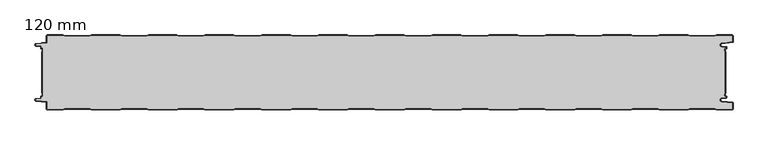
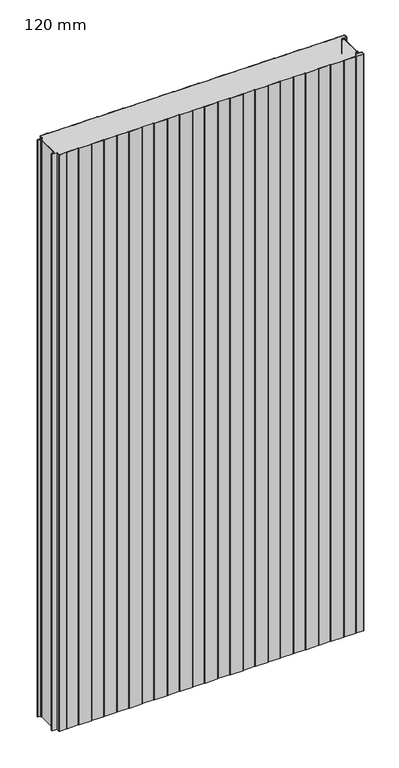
"""IFC4 building model written with IfcOpenShell, lengths in millimetres: plate geometry, HIANSA PANEL - H20.F03.001-PANEL FRIGORÍFICO - PANEL FRIGO - Panel de Muro Cortina : 120 mm."""

from ifc_helpers import new_model, si_unit, point, frame_2d, origin, origin_with_axes, place, context, project, spatial, polyline, circle_curve, trimmed, segment, composite_curve, outline, extrude, source, transform, mapped, element, save


def plate_120_mm_d4df899b(model_context):
    return source(origin(), model_context, "Body", "SweptSolid", [
        extrude(outline(polyline([(555.9827922, -94.0), (555.9827922, -26.0), (556.4221321, -26.6713576), (556.4221321, -93.3286424), (555.9827922, -94.0)])), origin_with_axes(), (0.0, 0.0, 1.0), 2200.0),
        extrude(outline(polyline([(-538.5172078, -26.0), (-538.5172078, -94.0), (-539.1172077, -92.9695032), (-539.1172077, -27.0304968), (-538.5172078, -26.0)])), origin_with_axes(), (0.0, 0.0, 1.0), 2200.0),
        extrude(outline(composite_curve([segment(polyline([(-370.9360691, -1.5), (-411.0983467, -1.5), (-414.0983467, -0.5), (-458.9360691, -0.5), (-461.9360691, -1.5), (-502.0983467, -1.5), (-505.0983467, -0.5), (-529.9172079, -0.5)]), True, "CONTINUOUS"), segment(trimmed(circle_curve(frame_2d((-529.9172079, -1.6)), 1.1), [point((-529.9172079, -0.5))], [point((-531.0172079, -1.6))], True, "CARTESIAN"), True, "CONTINUOUS"), segment(polyline([(-531.0172079, -1.6), (-531.0172079, -11.7987531)]), True, "CONTINUOUS"), segment(trimmed(circle_curve(frame_2d((-532.0172079, -11.7987531)), 1.0), [point((-531.0172079, -11.7987531))], [point((-531.9177042, -12.7937903))], False, "CARTESIAN"), True, "CONTINUOUS"), segment(polyline([(-531.9177042, -12.7937903), (-548.0592062, -14.4079404)]), True, "CONTINUOUS"), segment(trimmed(circle_curve(frame_2d((-547.9000002, -15.9999999)), 1.6), [point((-548.0592062, -14.4079404))], [point((-548.0592062, -17.5920594))], True, "CARTESIAN"), True, "CONTINUOUS"), segment(polyline([(-548.0592062, -17.5920594), (-541.4177042, -18.2562097)]), True, "CONTINUOUS"), segment(trimmed(circle_curve(frame_2d((-541.5172079, -19.2512469)), 1.0), [point((-541.4177042, -18.2562097))], [point((-540.5172079, -19.2512469))], False, "CARTESIAN"), True, "CONTINUOUS"), segment(polyline([(-540.5172079, -19.2512469), (-540.5172079, -21.5), (-539.0172079, -21.5)]), True, "CONTINUOUS"), segment(trimmed(circle_curve(frame_2d((-539.0172079, -22.5)), 1.0), [point((-539.0172079, -21.5))], [point((-538.0172079, -22.5))], False, "CARTESIAN"), True, "CONTINUOUS"), segment(polyline([(-538.0172079, -22.5), (-538.0172079, -25.1412526), (-538.5172079, -26.0), (-538.5172079, -22.0), (-540.0172079, -22.0)]), True, "CONTINUOUS"), segment(trimmed(circle_curve(frame_2d((-540.0172079, -21.0)), 1.0), [point((-540.0172079, -22.0))], [point((-541.0172079, -21.0))], False, "CARTESIAN"), True, "CONTINUOUS"), segment(polyline([(-541.0172079, -21.0), (-541.0172079, -18.7987531), (-548.1089579, -18.0895783)]), True, "CONTINUOUS"), segment(trimmed(circle_curve(frame_2d((-547.9000002, -16.0000002)), 2.1), [point((-548.1089579, -18.0895783))], [point((-548.108958, -13.9104221))], False, "CARTESIAN"), True, "CONTINUOUS"), segment(polyline([(-548.108958, -13.9104221), (-531.5172079, -12.2512469), (-531.5172079, -1.6)]), True, "CONTINUOUS"), segment(trimmed(circle_curve(frame_2d((-529.9172079, -1.6)), 1.6), [point((-531.5172079, -1.6))], [point((-529.9172079, 0.0))], False, "CARTESIAN"), True, "CONTINUOUS"), segment(polyline([(-529.9172079, 0.0), (-505.0172079, 0.0), (-502.0172079, -1.0), (-462.0172079, -1.0), (-459.0172079, 0.0), (-414.0172079, 0.0), (-411.0172079, -1.0), (-371.0172079, -1.0), (-368.0172079, 0.0), (-323.0172079, 0.0), (-320.0172079, -1.0), (-280.0172079, -1.0), (-277.0172079, 0.0), (-232.0172079, 0.0), (-229.0172079, -1.0), (-189.0172079, -1.0), (-186.0172079, 0.0), (-141.0172079, 0.0), (-138.0172079, -1.0), (-98.0172079, -1.0), (-95.0172079, 0.0), (-50.0172079, 0.0), (-47.0172079, -1.0), (-7.0172079, -1.0), (-4.0172079, 0.0), (40.9827921, 0.0), (43.9827921, -1.0), (83.9827921, -1.0), (86.9827921, 0.0), (131.9827921, 0.0), (134.9827921, -1.0), (174.9827921, -1.0), (177.9827921, 0.0), (222.9827921, 0.0), (225.9827921, -1.0), (265.9827921, -1.0), (268.9827921, 0.0), (313.9827921, 0.0), (316.9827921, -1.0), (356.9827921, -1.0), (359.9827921, 0.0), (404.9827921, 0.0), (407.9827921, -1.0), (447.9827921, -1.0), (450.9827921, 0.0), (495.9827921, 0.0), (498.9827921, -1.0), (538.9827921, -1.0), (541.9827921, 0.0), (566.8827921, 0.0)]), True, "CONTINUOUS"), segment(trimmed(circle_curve(frame_2d((566.8827921, -1.6)), 1.6), [point((566.8827921, 0.0))], [point((568.4827921, -1.6))], False, "CARTESIAN"), True, "CONTINUOUS"), segment(polyline([(568.4827921, -1.6), (568.4827921, -11.0950124)]), True, "CONTINUOUS"), segment(trimmed(circle_curve(frame_2d((567.4827921, -11.0950124)), 1.0), [point((568.4827921, -11.0950124))], [point((567.5822958, -12.0900496))], False, "CARTESIAN"), True, "CONTINUOUS"), segment(polyline([(567.5822958, -12.0900496), (550.2837847, -13.8199007)]), True, "CONTINUOUS"), segment(trimmed(circle_curve(frame_2d((550.5873461, -16.0)), 2.2011321), [point((550.2837847, -13.8199007))], [point((550.2837847, -18.1800993))], True, "CARTESIAN"), True, "CONTINUOUS"), segment(polyline([(550.2837847, -18.1800993), (557.5822958, -18.9099504)]), True, "CONTINUOUS"), segment(trimmed(circle_curve(frame_2d((557.4827921, -19.9049876)), 1.0), [point((557.5822958, -18.9099504))], [point((558.4827921, -19.9049876))], False, "CARTESIAN"), True, "CONTINUOUS"), segment(polyline([(558.4827921, -19.9049876), (558.4827921, -21.0)]), True, "CONTINUOUS"), segment(trimmed(circle_curve(frame_2d((557.4827921, -21.0)), 1.0), [point((558.4827921, -21.0))], [point((557.4827921, -22.0))], False, "CARTESIAN"), True, "CONTINUOUS"), segment(polyline([(557.4827921, -22.0), (555.9827921, -22.0), (555.9827921, -26.0), (555.4827921, -25.2359473), (555.4827921, -22.5)]), True, "CONTINUOUS"), segment(trimmed(circle_curve(frame_2d((556.4827921, -22.5)), 1.0), [point((555.4827921, -22.5))], [point((556.4827921, -21.5))], False, "CARTESIAN"), True, "CONTINUOUS"), segment(polyline([(556.4827921, -21.5), (557.9827921, -21.5), (557.9827921, -19.4524938), (550.2340328, -18.6776179)]), True, "CONTINUOUS"), segment(trimmed(circle_curve(frame_2d((550.5859823, -16.0)), 2.7006492), [point((550.2340328, -18.6776179))], [point((550.2340328, -13.3223821))], False, "CARTESIAN"), True, "CONTINUOUS"), segment(polyline([(550.2340328, -13.3223821), (567.9827921, -11.5475062), (567.9827921, -1.6)]), True, "CONTINUOUS"), segment(trimmed(circle_curve(frame_2d((566.8827921, -1.6)), 1.1), [point((567.9827921, -1.6))], [point((566.8827921, -0.5))], True, "CARTESIAN"), True, "CONTINUOUS"), segment(polyline([(566.8827921, -0.5), (542.0639309, -0.5), (539.0639309, -1.5), (498.9016533, -1.5), (495.9016533, -0.5), (451.0639309, -0.5), (448.0639309, -1.5), (407.9016533, -1.5), (404.9016533, -0.5), (360.0639309, -0.5), (357.0639309, -1.5), (316.9016533, -1.5), (313.9016533, -0.5), (269.0639309, -0.5), (266.0639309, -1.5), (225.9016533, -1.5), (222.9016533, -0.5), (178.0639309, -0.5), (175.0639309, -1.5), (134.9016533, -1.5), (131.9016533, -0.5), (87.0639309, -0.5), (84.0639309, -1.5), (43.9016533, -1.5), (40.9016533, -0.5), (-3.9360691, -0.5), (-6.9360691, -1.5), (-47.0983467, -1.5), (-50.0983467, -0.5), (-94.9360691, -0.5), (-97.9360691, -1.5), (-138.0983467, -1.5), (-141.0983467, -0.5), (-185.9360691, -0.5), (-188.9360691, -1.5), (-229.0983467, -1.5), (-232.0983467, -0.5), (-276.9360691, -0.5), (-279.9360691, -1.5), (-320.0983467, -1.5), (-323.0983467, -0.5), (-367.9360691, -0.5), (-370.9360691, -1.5)]), True, "CONTINUOUS")], self_intersect=False)), origin_with_axes(), (0.0, 0.0, 1.0), 2200.0),
        extrude(outline(composite_curve([segment(polyline([(-370.9360691, -118.5), (-367.9360691, -119.5), (-323.0983467, -119.5), (-320.0983467, -118.5), (-279.9360691, -118.5), (-276.9360691, -119.5), (-232.0983467, -119.5), (-229.0983467, -118.5), (-188.9360691, -118.5), (-185.9360691, -119.5), (-141.0983467, -119.5), (-138.0983467, -118.5), (-97.9360691, -118.5), (-94.9360691, -119.5), (-50.0983467, -119.5), (-47.0983467, -118.5), (-6.9360691, -118.5), (-3.9360691, -119.5), (40.9016533, -119.5), (43.9016533, -118.5), (84.0639309, -118.5), (87.0639309, -119.5), (131.9016533, -119.5), (134.9016533, -118.5), (175.0639309, -118.5), (178.0639309, -119.5), (222.9016533, -119.5), (225.9016533, -118.5), (266.0639309, -118.5), (269.0639309, -119.5), (313.9016533, -119.5), (316.9016533, -118.5), (357.0639309, -118.5), (360.0639309, -119.5), (404.9016533, -119.5), (407.9016533, -118.5), (448.0639309, -118.5), (451.0639309, -119.5), (495.9016533, -119.5), (498.9016533, -118.5), (539.0639309, -118.5), (542.0639309, -119.5), (566.8827921, -119.5)]), True, "CONTINUOUS"), segment(trimmed(circle_curve(frame_2d((566.8827921, -118.4)), 1.1), [point((566.8827921, -119.5))], [point((567.9827921, -118.4))], True, "CARTESIAN"), True, "CONTINUOUS"), segment(polyline([(567.9827921, -118.4), (567.9827921, -108.4524938), (550.2340328, -106.6776179)]), True, "CONTINUOUS"), segment(trimmed(circle_curve(frame_2d((550.5859823, -104.0)), 2.7006492), [point((550.2340328, -106.6776179))], [point((550.2340328, -101.3223821))], False, "CARTESIAN"), True, "CONTINUOUS"), segment(polyline([(550.2340328, -101.3223821), (557.9827921, -100.5475062), (557.9827921, -98.5), (556.4827921, -98.5)]), True, "CONTINUOUS"), segment(trimmed(circle_curve(frame_2d((556.4827921, -97.5)), 1.0), [point((556.4827921, -98.5))], [point((555.4827921, -97.5))], False, "CARTESIAN"), True, "CONTINUOUS"), segment(polyline([(555.4827921, -97.5), (555.4827921, -94.7640527), (555.9827921, -94.0), (555.9827921, -98.0), (557.4827921, -98.0)]), True, "CONTINUOUS"), segment(trimmed(circle_curve(frame_2d((557.4827921, -99.0)), 1.0), [point((557.4827921, -98.0))], [point((558.4827921, -99.0))], False, "CARTESIAN"), True, "CONTINUOUS"), segment(polyline([(558.4827921, -99.0), (558.4827921, -100.0950124)]), True, "CONTINUOUS"), segment(trimmed(circle_curve(frame_2d((557.4827921, -100.0950124)), 1.0), [point((558.4827921, -100.0950124))], [point((557.5822958, -101.0900496))], False, "CARTESIAN"), True, "CONTINUOUS"), segment(polyline([(557.5822958, -101.0900496), (550.2837847, -101.8199007)]), True, "CONTINUOUS"), segment(trimmed(circle_curve(frame_2d((550.5873461, -104.0)), 2.2011321), [point((550.2837847, -101.8199007))], [point((550.2837847, -106.1800993))], True, "CARTESIAN"), True, "CONTINUOUS"), segment(polyline([(550.2837847, -106.1800993), (567.5822958, -107.9099504)]), True, "CONTINUOUS"), segment(trimmed(circle_curve(frame_2d((567.4827921, -108.9049876)), 1.0), [point((567.5822958, -107.9099504))], [point((568.4827921, -108.9049876))], False, "CARTESIAN"), True, "CONTINUOUS"), segment(polyline([(568.4827921, -108.9049876), (568.4827921, -118.4)]), True, "CONTINUOUS"), segment(trimmed(circle_curve(frame_2d((566.8827921, -118.4)), 1.6), [point((568.4827921, -118.4))], [point((566.8827921, -120.0))], False, "CARTESIAN"), True, "CONTINUOUS"), segment(polyline([(566.8827921, -120.0), (541.9827921, -120.0), (538.9827921, -119.0), (498.9827921, -119.0), (495.9827921, -120.0), (450.9827921, -120.0), (447.9827921, -119.0), (407.9827921, -119.0), (404.9827921, -120.0), (359.9827921, -120.0), (356.9827921, -119.0), (316.9827921, -119.0), (313.9827921, -120.0), (268.9827921, -120.0), (265.9827921, -119.0), (225.9827921, -119.0), (222.9827921, -120.0), (177.9827921, -120.0), (174.9827921, -119.0), (134.9827921, -119.0), (131.9827921, -120.0), (86.9827921, -120.0), (83.9827921, -119.0), (43.9827921, -119.0), (40.9827921, -120.0), (-4.0172079, -120.0), (-7.0172079, -119.0), (-47.0172079, -119.0), (-50.0172079, -120.0), (-95.0172079, -120.0), (-98.0172079, -119.0), (-138.0172079, -119.0), (-141.0172079, -120.0), (-186.0172079, -120.0), (-189.0172079, -119.0), (-229.0172079, -119.0), (-232.0172079, -120.0), (-277.0172079, -120.0), (-280.0172079, -119.0), (-320.0172079, -119.0), (-323.0172079, -120.0), (-368.0172079, -120.0), (-371.0172079, -119.0), (-411.0172079, -119.0), (-414.0172079, -120.0), (-459.0172079, -120.0), (-462.0172079, -119.0), (-502.0172079, -119.0), (-505.0172079, -120.0), (-529.9172079, -120.0)]), True, "CONTINUOUS"), segment(trimmed(circle_curve(frame_2d((-529.9172079, -118.4)), 1.6), [point((-529.9172079, -120.0))], [point((-531.5172079, -118.4))], False, "CARTESIAN"), True, "CONTINUOUS"), segment(polyline([(-531.5172079, -118.4), (-531.5172079, -107.7487531), (-548.108958, -106.0895779)]), True, "CONTINUOUS"), segment(trimmed(circle_curve(frame_2d((-547.9000002, -103.9999998)), 2.1), [point((-548.108958, -106.0895779))], [point((-548.1089579, -101.9104217))], False, "CARTESIAN"), True, "CONTINUOUS"), segment(polyline([(-548.1089579, -101.9104217), (-541.0172079, -101.2012469), (-541.0172079, -99.0)]), True, "CONTINUOUS"), segment(trimmed(circle_curve(frame_2d((-540.0172079, -99.0)), 1.0), [point((-541.0172079, -99.0))], [point((-540.0172079, -98.0))], False, "CARTESIAN"), True, "CONTINUOUS"), segment(polyline([(-540.0172079, -98.0), (-538.5172079, -98.0), (-538.5172079, -94.0), (-538.0172079, -94.8587474), (-538.0172079, -97.5)]), True, "CONTINUOUS"), segment(trimmed(circle_curve(frame_2d((-539.0172079, -97.5)), 1.0), [point((-538.0172079, -97.5))], [point((-539.0172079, -98.5))], False, "CARTESIAN"), True, "CONTINUOUS"), segment(polyline([(-539.0172079, -98.5), (-540.5172079, -98.5), (-540.5172079, -100.7487531)]), True, "CONTINUOUS"), segment(trimmed(circle_curve(frame_2d((-541.5172079, -100.7487531)), 1.0), [point((-540.5172079, -100.7487531))], [point((-541.4177042, -101.7437903))], False, "CARTESIAN"), True, "CONTINUOUS"), segment(polyline([(-541.4177042, -101.7437903), (-548.0592062, -102.4079406)]), True, "CONTINUOUS"), segment(trimmed(circle_curve(frame_2d((-547.9000002, -104.0000001)), 1.6), [point((-548.0592062, -102.4079406))], [point((-548.0592062, -105.5920596))], True, "CARTESIAN"), True, "CONTINUOUS"), segment(polyline([(-548.0592062, -105.5920596), (-531.9177042, -107.2062097)]), True, "CONTINUOUS"), segment(trimmed(circle_curve(frame_2d((-532.0172079, -108.2012469)), 1.0), [point((-531.9177042, -107.2062097))], [point((-531.0172079, -108.2012469))], False, "CARTESIAN"), True, "CONTINUOUS"), segment(polyline([(-531.0172079, -108.2012469), (-531.0172079, -118.4)]), True, "CONTINUOUS"), segment(trimmed(circle_curve(frame_2d((-529.9172079, -118.4)), 1.1), [point((-531.0172079, -118.4))], [point((-529.9172079, -119.5))], True, "CARTESIAN"), True, "CONTINUOUS"), segment(polyline([(-529.9172079, -119.5), (-505.0983467, -119.5), (-502.0983467, -118.5), (-461.9360691, -118.5), (-458.9360691, -119.5), (-414.0983467, -119.5), (-411.0983467, -118.5), (-370.9360691, -118.5)]), True, "CONTINUOUS")], self_intersect=False)), origin_with_axes(), (0.0, 0.0, 1.0), 2200.0),
        extrude(outline(composite_curve([segment(polyline([(-461.936069, -1.5), (-458.936069, -0.5), (-414.0983467, -0.5), (-411.0983467, -1.5), (-370.936069, -1.5), (-367.936069, -0.5), (-323.0983467, -0.5), (-320.0983467, -1.5), (-279.936069, -1.5), (-276.936069, -0.5), (-232.0983467, -0.5), (-229.0983467, -1.5), (-188.936069, -1.5), (-185.936069, -0.5), (-141.0983467, -0.5), (-138.0983467, -1.5), (-97.936069, -1.5), (-94.936069, -0.5), (-50.0983467, -0.5), (-47.0983467, -1.5), (-6.936069, -1.5), (-3.936069, -0.5), (40.9016533, -0.5), (43.9016533, -1.5), (84.063931, -1.5), (87.063931, -0.5), (131.9016533, -0.5), (134.9016533, -1.5), (175.063931, -1.5), (178.063931, -0.5), (222.9016533, -0.5), (225.9016533, -1.5), (266.063931, -1.5), (269.063931, -0.5), (313.9016533, -0.5), (316.9016533, -1.5), (357.063931, -1.5), (360.063931, -0.5), (404.9016533, -0.5), (407.9016533, -1.5), (448.063931, -1.5), (451.063931, -0.5), (495.9016533, -0.5), (498.9016533, -1.5), (539.063931, -1.5), (542.063931, -0.5), (566.8827921, -0.5)]), True, "CONTINUOUS"), segment(trimmed(circle_curve(frame_2d((566.8827921, -1.6)), 1.1), [point((566.8827921, -0.5))], [point((567.9827921, -1.6))], False, "CARTESIAN"), True, "CONTINUOUS"), segment(polyline([(567.9827921, -1.6), (567.9827921, -11.5475062), (550.2340328, -13.3223821)]), True, "CONTINUOUS"), segment(trimmed(circle_curve(frame_2d((550.5859824, -16.0)), 2.7006492), [point((550.2340328, -13.3223821))], [point((550.2340328, -18.6776179))], True, "CARTESIAN"), True, "CONTINUOUS"), segment(polyline([(550.2340328, -18.6776179), (557.9827921, -19.4524938), (557.9827921, -21.5), (556.4827921, -21.5)]), True, "CONTINUOUS"), segment(trimmed(circle_curve(frame_2d((556.4827921, -22.5)), 1.0), [point((556.4827921, -21.5))], [point((555.4827921, -22.5))], True, "CARTESIAN"), True, "CONTINUOUS"), segment(polyline([(555.4827921, -22.5), (555.4827921, -25.2359473), (555.9827921, -26.0), (555.9827921, -94.0), (555.4827921, -94.7640527), (555.4827921, -97.5)]), True, "CONTINUOUS"), segment(trimmed(circle_curve(frame_2d((556.4827921, -97.5)), 1.0), [point((555.4827921, -97.5))], [point((556.4827921, -98.5))], True, "CARTESIAN"), True, "CONTINUOUS"), segment(polyline([(556.4827921, -98.5), (557.9827921, -98.5), (557.9827921, -100.5475062), (550.2340328, -101.3223821)]), True, "CONTINUOUS"), segment(trimmed(circle_curve(frame_2d((550.5859824, -104.0)), 2.7006492), [point((550.2340328, -101.3223821))], [point((550.2340328, -106.6776179))], True, "CARTESIAN"), True, "CONTINUOUS"), segment(polyline([(550.2340328, -106.6776179), (567.9827921, -108.4524938), (567.9827921, -118.4)]), True, "CONTINUOUS"), segment(trimmed(circle_curve(frame_2d((566.8827921, -118.4)), 1.1), [point((567.9827921, -118.4))], [point((566.8827921, -119.5))], False, "CARTESIAN"), True, "CONTINUOUS"), segment(polyline([(566.8827921, -119.5), (542.063931, -119.5), (539.063931, -118.5), (498.9016533, -118.5), (495.9016533, -119.5), (451.063931, -119.5), (448.063931, -118.5), (407.9016533, -118.5), (404.9016533, -119.5), (360.063931, -119.5), (357.063931, -118.5), (316.9016533, -118.5), (313.9016533, -119.5), (269.063931, -119.5), (266.063931, -118.5), (225.9016533, -118.5), (222.9016533, -119.5), (178.063931, -119.5), (175.063931, -118.5), (134.9016533, -118.5), (131.9016533, -119.5), (87.063931, -119.5), (84.063931, -118.5), (43.9016533, -118.5), (40.9016533, -119.5), (-3.936069, -119.5), (-6.936069, -118.5), (-47.0983467, -118.5), (-50.0983467, -119.5), (-94.936069, -119.5), (-97.936069, -118.5), (-138.0983467, -118.5), (-141.0983467, -119.5), (-185.936069, -119.5), (-188.936069, -118.5), (-229.0983467, -118.5), (-232.0983467, -119.5), (-276.936069, -119.5), (-279.936069, -118.5), (-320.0983467, -118.5), (-323.0983467, -119.5), (-367.936069, -119.5), (-370.936069, -118.5), (-411.0983467, -118.5), (-414.0983467, -119.5), (-458.936069, -119.5), (-461.936069, -118.5), (-502.0983467, -118.5), (-505.0983467, -119.5), (-529.9172079, -119.5)]), True, "CONTINUOUS"), segment(trimmed(circle_curve(frame_2d((-529.9172079, -118.4)), 1.1), [point((-529.9172079, -119.5))], [point((-531.0172079, -118.4))], False, "CARTESIAN"), True, "CONTINUOUS"), segment(polyline([(-531.0172079, -118.4), (-531.0172079, -108.2012469)]), True, "CONTINUOUS"), segment(trimmed(circle_curve(frame_2d((-532.0172079, -108.2012469)), 1.0), [point((-531.0172079, -108.2012469))], [point((-531.9177042, -107.2062097))], True, "CARTESIAN"), True, "CONTINUOUS"), segment(polyline([(-531.9177042, -107.2062097), (-548.0592062, -105.5920596)]), True, "CONTINUOUS"), segment(trimmed(circle_curve(frame_2d((-547.9000002, -104.0000001)), 1.6), [point((-548.0592062, -105.5920596))], [point((-548.0592062, -102.4079406))], False, "CARTESIAN"), True, "CONTINUOUS"), segment(polyline([(-548.0592062, -102.4079406), (-541.4177041, -101.7437903)]), True, "CONTINUOUS"), segment(trimmed(circle_curve(frame_2d((-541.5172079, -100.7487531)), 1.0), [point((-541.4177041, -101.7437903))], [point((-540.5172079, -100.7487531))], True, "CARTESIAN"), True, "CONTINUOUS"), segment(polyline([(-540.5172079, -100.7487531), (-540.5172079, -98.5), (-539.0172079, -98.5)]), True, "CONTINUOUS"), segment(trimmed(circle_curve(frame_2d((-539.0172079, -97.5)), 1.0), [point((-539.0172079, -98.5))], [point((-538.0172079, -97.5))], True, "CARTESIAN"), True, "CONTINUOUS"), segment(polyline([(-538.0172079, -97.5), (-538.0172079, -94.8587474), (-538.5172079, -94.0), (-538.5172079, -26.0), (-538.0172079, -25.1412526), (-538.0172079, -22.5)]), True, "CONTINUOUS"), segment(trimmed(circle_curve(frame_2d((-539.0172079, -22.5)), 1.0), [point((-538.0172079, -22.5))], [point((-539.0172079, -21.5))], True, "CARTESIAN"), True, "CONTINUOUS"), segment(polyline([(-539.0172079, -21.5), (-540.5172079, -21.5), (-540.5172079, -19.2512469)]), True, "CONTINUOUS"), segment(trimmed(circle_curve(frame_2d((-541.5172079, -19.2512469)), 1.0), [point((-540.5172079, -19.2512469))], [point((-541.4177041, -18.2562097))], True, "CARTESIAN"), True, "CONTINUOUS"), segment(polyline([(-541.4177041, -18.2562097), (-548.0592062, -17.5920594)]), True, "CONTINUOUS"), segment(trimmed(circle_curve(frame_2d((-547.9000003, -15.9999999)), 1.6), [point((-548.0592062, -17.5920594))], [point((-548.0592062, -14.4079404))], False, "CARTESIAN"), True, "CONTINUOUS"), segment(polyline([(-548.0592062, -14.4079404), (-531.9177042, -12.7937903)]), True, "CONTINUOUS"), segment(trimmed(circle_curve(frame_2d((-532.0172079, -11.7987531)), 1.0), [point((-531.9177042, -12.7937903))], [point((-531.0172079, -11.7987531))], True, "CARTESIAN"), True, "CONTINUOUS"), segment(polyline([(-531.0172079, -11.7987531), (-531.0172079, -1.6)]), True, "CONTINUOUS"), segment(trimmed(circle_curve(frame_2d((-529.9172079, -1.6)), 1.1), [point((-531.0172079, -1.6))], [point((-529.9172079, -0.5))], False, "CARTESIAN"), True, "CONTINUOUS"), segment(polyline([(-529.9172079, -0.5), (-505.0983467, -0.5), (-502.0983467, -1.5), (-461.936069, -1.5)]), True, "CONTINUOUS")], self_intersect=False)), origin_with_axes(), (0.0, 0.0, 1.0), 2200.0),
    ])


if __name__ == "__main__":
    model = new_model("IFC4")
    model_context = context("Model", 3, world=origin())
    ifc_project = project(units=[si_unit("LENGTHUNIT", "METRE", prefix="MILLI")], contexts=[model_context])
    site = spatial("IfcSite", under=ifc_project)
    building = spatial("IfcBuilding", under=site)
    placement = place(None, origin())
    plate_120_mm_shape = plate_120_mm_d4df899b(model_context)
    element("IfcPlate", 1, ObjectType="HIANSA PANEL - H20.F03.001-PANEL FRIGORÍFICO - PANEL FRIGO - Panel de Muro Cortina : 120 mm", at=placement, inside=building, context=model_context, shape_type="MappedRepresentation", body=[
        mapped(plate_120_mm_shape, transform((0.0, 0.0, 0.0), x_axis=(1.0, 0.0, 0.0), y_axis=(0.0, 1.0, 0.0), z_axis=(0.0, 0.0, 1.0))),
    ])
    save(model, "model.ifc")
